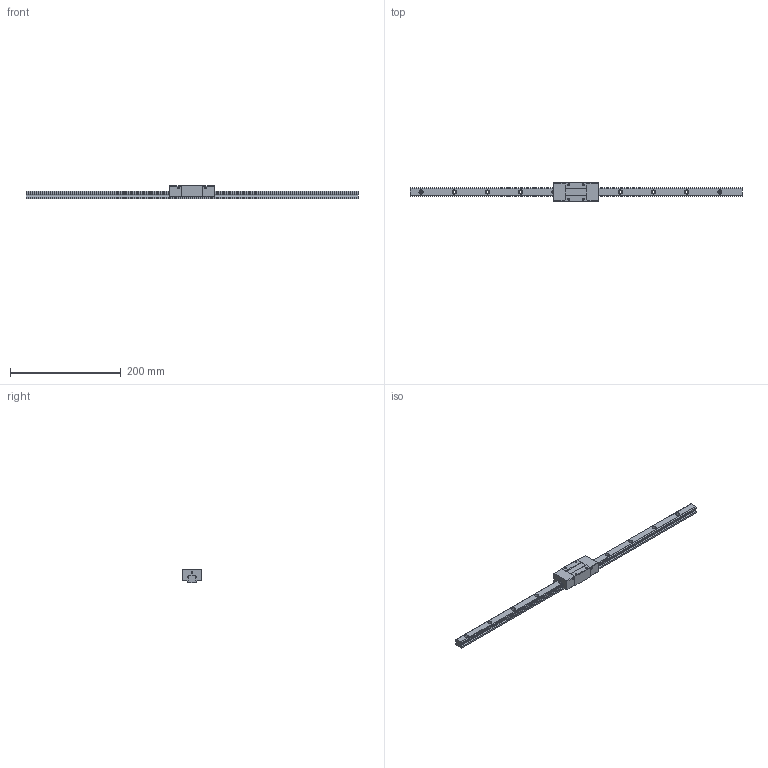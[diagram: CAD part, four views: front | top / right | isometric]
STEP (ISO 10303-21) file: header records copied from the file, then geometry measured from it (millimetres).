
FILE_DESCRIPTION (( 'STEP AP203' ), '1' );
FILE_NAME ('TRS15VN-DZ.STEP', '2024-07-12T03:45:17', ( '' ), ( '' ), 'SwSTEP 2.0', 'SolidWorks 2022', '' );
FILE_SCHEMA (( 'CONFIG_CONTROL_DESIGN' ));
Length unit declared in the file: millimetre
Products named in the file (1): TRS15VN-DZ
Bounding box: 600 x 34 x 24 mm (x, y, z)
Volume: 145126.5 mm3; surface area: 49199.1 mm2
Topology: 2 solids, 2 shells, 204 faces, 528 edges, 340 vertices
Faces by surface type: cylinder 96, plane 92, cone 16
Entity records: 6319 total; most frequent: DIRECTION 1130, CARTESIAN_POINT 1065, ORIENTED_EDGE 1040, EDGE_CURVE 520, AXIS2_PLACEMENT_3D 405, VERTEX_POINT 340, LINE 320, VECTOR 320
